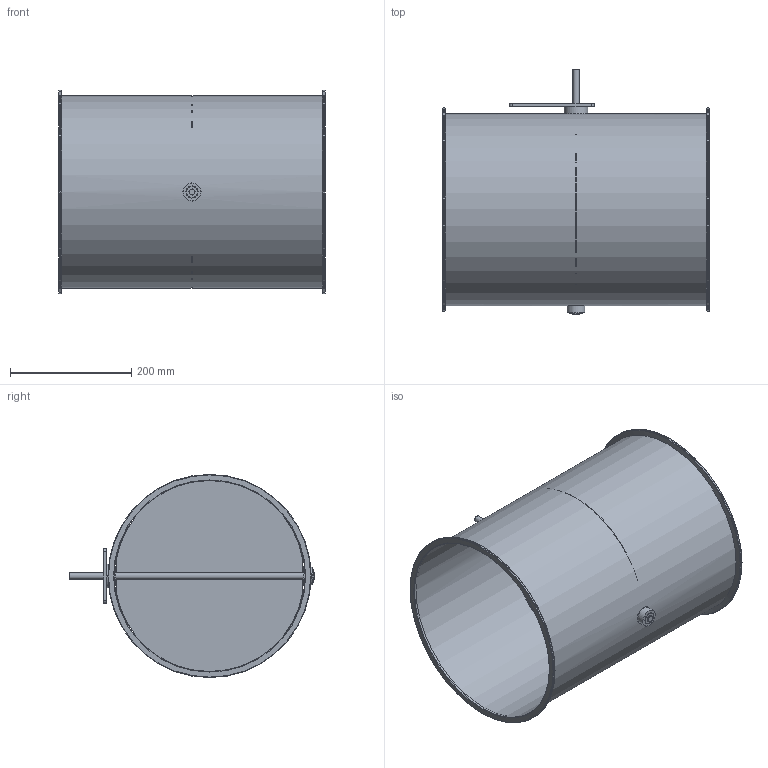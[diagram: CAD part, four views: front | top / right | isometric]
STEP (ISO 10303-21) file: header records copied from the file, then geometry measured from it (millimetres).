
FILE_DESCRIPTION(/* description */ (''),/* implementation_level */ '2;1');
FILE_NAME(/* name */ 'EA106-80B__315_L440_Belimo_Typ_NM.stp',/* time_stamp */ '2017-12-06T15:14:39+01:00',/* author */ (''),/* organization */ (''),/* preprocessor_version */ 'ST-DEVELOPER v11',/* originating_system */ 'SIEMENS UGS NX 6.0',/* authorisation */ '');
FILE_SCHEMA (('CONFIG_CONTROL_DESIGN'));
Length unit declared in the file: millimetre
Products named in the file (1): gars18E2j2cz
Bounding box: 440 x 405 x 335 mm (x, y, z)
Volume: 631181.8 mm3; surface area: 1115318.2 mm2
Topology: 8 solids, 8 shells, 60 faces, 126 edges, 84 vertices
Faces by surface type: cylinder 28, plane 24, torus 6, cone 2
Full cylindrical faces by diameter (mm): 4.1 x4, 10 x3, 19 x3, 19.85 x2, 20 x2, 29 x1, 30 x2, 39 x1, 315 x1, 316.6 x1, 335 x2
Entity records: 1568 total; most frequent: CARTESIAN_POINT 289, DIRECTION 262, ORIENTED_EDGE 172, AXIS2_PLACEMENT_3D 119, EDGE_LOOP 116, FACE_BOUND 102, EDGE_CURVE 86, VERTEX_POINT 74
